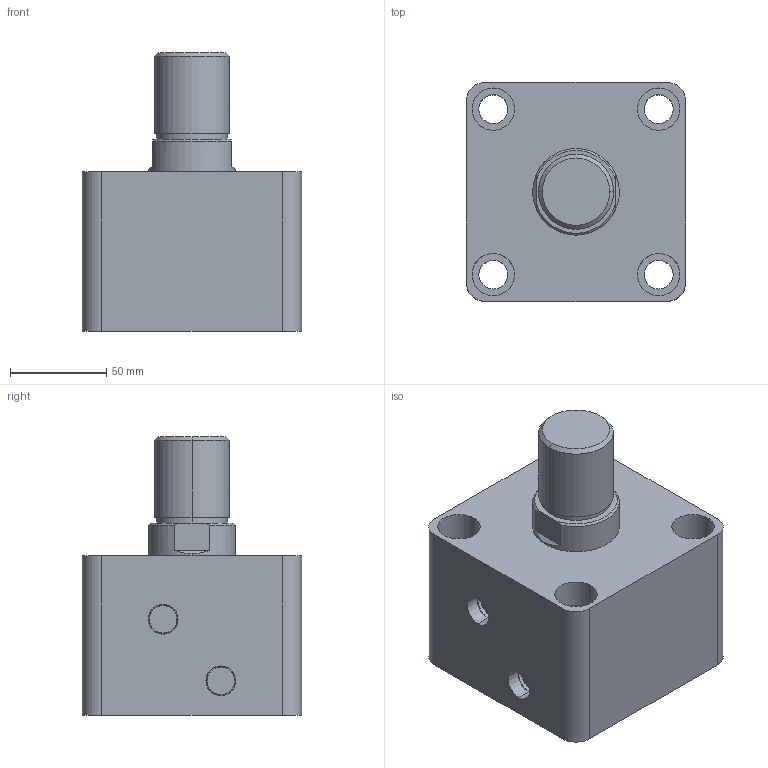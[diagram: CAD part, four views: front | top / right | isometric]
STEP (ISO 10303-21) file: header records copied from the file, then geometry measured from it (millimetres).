
FILE_DESCRIPTION (( 'STEP AP203' ), '1' );
FILE_NAME ('HTB-SD80-5W.STEP', '2019-10-07T08:12:39', ( '微软用户' ), ( '微软中国' ), 'SwSTEP 2.0', 'SolidWorks 2012', '' );
FILE_SCHEMA (( 'CONFIG_CONTROL_DESIGN' ));
Length unit declared in the file: millimetre
Products named in the file (3): HTB-SD80-5W; HTB-SD80-5W活塞杆; HTB-SD80-5掛极
Assembly tree (2 placements, depth 2):
  HTB-SD80-5W
    HTB-SD80-5掛极
    HTB-SD80-5W活塞杆
Bounding box: 114 x 114 x 145 mm (x, y, z)
Volume: 1046833.2 mm3; surface area: 131280.6 mm2
Topology: 2 solids, 2 shells, 87 faces, 190 edges, 124 vertices
Faces by surface type: cylinder 44, plane 29, cone 8, torus 6
Entity records: 2761 total; most frequent: DIRECTION 478, CARTESIAN_POINT 434, ORIENTED_EDGE 380, AXIS2_PLACEMENT_3D 204, EDGE_CURVE 190, VERTEX_POINT 124, CIRCLE 112, EDGE_LOOP 112
